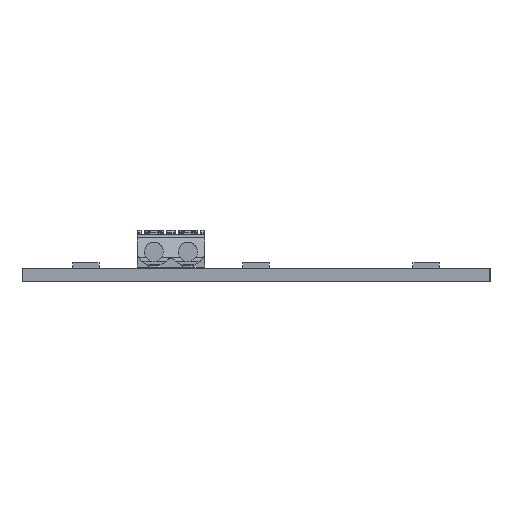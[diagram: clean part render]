
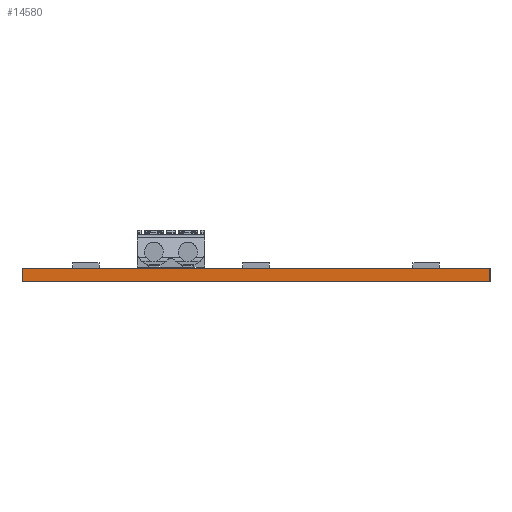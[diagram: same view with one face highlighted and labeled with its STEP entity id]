
A CAD part, left-side view. The second image highlights one B-rep face of the part: STEP entity #14580.
In plain terms, the highlighted planar face has unit normal (-1, 0, 0).
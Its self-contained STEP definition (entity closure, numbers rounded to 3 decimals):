
#1581=LINE('',#23835,#3120);
#1582=LINE('',#23838,#3121);
#1583=LINE('',#23840,#3122);
#1584=LINE('',#23841,#3123);
#3120=VECTOR('',#19512,10.);
#3121=VECTOR('',#19515,10.);
#3122=VECTOR('',#19516,10.);
#3123=VECTOR('',#19517,10.);
#3622=PLANE('',#15719);
#4572=FACE_OUTER_BOUND('',#5297,.T.);
#5297=EDGE_LOOP('',(#12931,#12932,#12933,#12934));
#7245=VERTEX_POINT('',#23831);
#7246=VERTEX_POINT('',#23833);
#7247=VERTEX_POINT('',#23837);
#7248=VERTEX_POINT('',#23839);
#9267=EDGE_CURVE('',#7245,#7246,#1581,.T.);
#9268=EDGE_CURVE('',#7245,#7247,#1582,.T.);
#9269=EDGE_CURVE('',#7248,#7246,#1583,.T.);
#9270=EDGE_CURVE('',#7247,#7248,#1584,.T.);
#12931=ORIENTED_EDGE('',*,*,#9268,.F.);
#12932=ORIENTED_EDGE('',*,*,#9267,.T.);
#12933=ORIENTED_EDGE('',*,*,#9269,.F.);
#12934=ORIENTED_EDGE('',*,*,#9270,.F.);
#14580=ADVANCED_FACE('',(#4572),#3622,.T.);
#15719=AXIS2_PLACEMENT_3D('',#23836,#19513,#19514);
#19512=DIRECTION('',(0.,0.,-1.));
#19513=DIRECTION('center_axis',(-1.,0.,0.));
#19514=DIRECTION('ref_axis',(0.,1.,0.));
#19515=DIRECTION('',(0.,-1.,0.));
#19516=DIRECTION('',(0.,1.,0.));
#19517=DIRECTION('',(0.,0.,-1.));
#23831=CARTESIAN_POINT('',(0.,55.,0.));
#23833=CARTESIAN_POINT('',(0.,55.,-1.6));
#23835=CARTESIAN_POINT('',(0.,55.,0.));
#23836=CARTESIAN_POINT('Origin',(0.,0.,0.));
#23837=CARTESIAN_POINT('',(0.,0.,0.));
#23838=CARTESIAN_POINT('',(0.,55.,0.));
#23839=CARTESIAN_POINT('',(0.,0.,-1.6));
#23840=CARTESIAN_POINT('',(0.,55.,-1.6));
#23841=CARTESIAN_POINT('',(0.,0.,0.));
